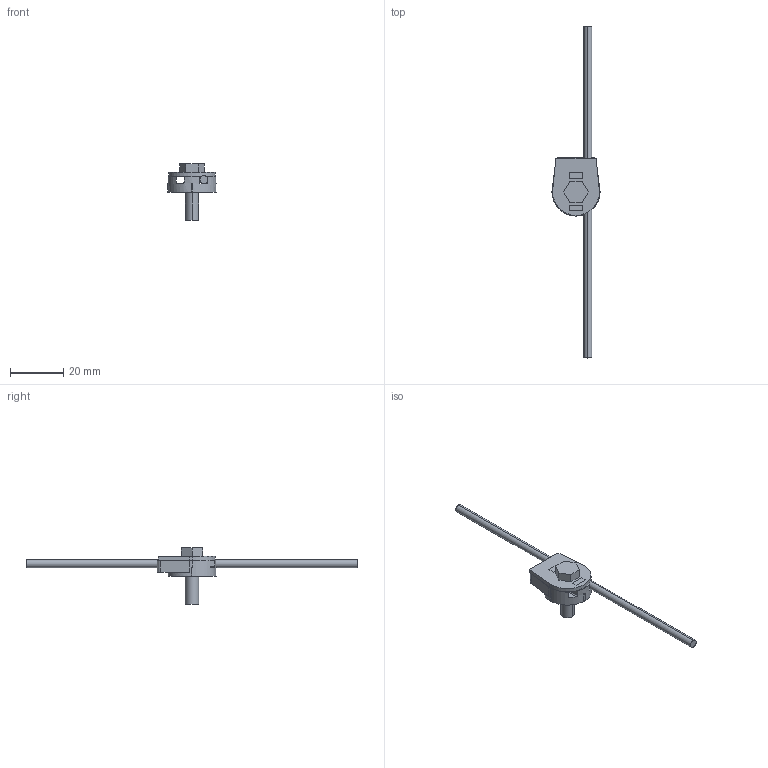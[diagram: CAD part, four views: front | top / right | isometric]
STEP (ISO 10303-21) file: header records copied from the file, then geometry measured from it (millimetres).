
FILE_DESCRIPTION (( 'STEP AP203' ), '1' );
FILE_NAME ('ZF_VF_L32_A10.step', '2010-03-09T13:32:12', ( 'fabio' ), ( '' ), 'SwSTEP 2.0', 'SolidWorks 2009', '' );
FILE_SCHEMA (( 'CONFIG_CONTROL_DESIGN' ));
Length unit declared in the file: millimetre
Products named in the file (5): ZF_VF_L32_A10; Pizzato_supporto-leva_serie_pesanti_263; Pizzato_piastrina_aste_pesanti_261; Pizzato_asta_tonda_d3; Vite_aste_pesanti
Assembly tree (4 placements, depth 2):
  ZF_VF_L32_A10
    Pizzato_asta_tonda_d3
    Pizzato_piastrina_aste_pesanti_261
    Pizzato_supporto-leva_serie_pesanti_263
    Vite_aste_pesanti
Bounding box: 18.4 x 125 x 21.3 mm (x, y, z)
Volume: 3134.3 mm3; surface area: 3880.3 mm2
Topology: 4 solids, 4 shells, 233 faces, 660 edges, 440 vertices
Faces by surface type: plane 127, cylinder 106
Entity records: 8167 total; most frequent: DIRECTION 1364, CARTESIAN_POINT 1352, ORIENTED_EDGE 1320, EDGE_CURVE 660, AXIS2_PLACEMENT_3D 466, VERTEX_POINT 440, LINE 432, VECTOR 432
